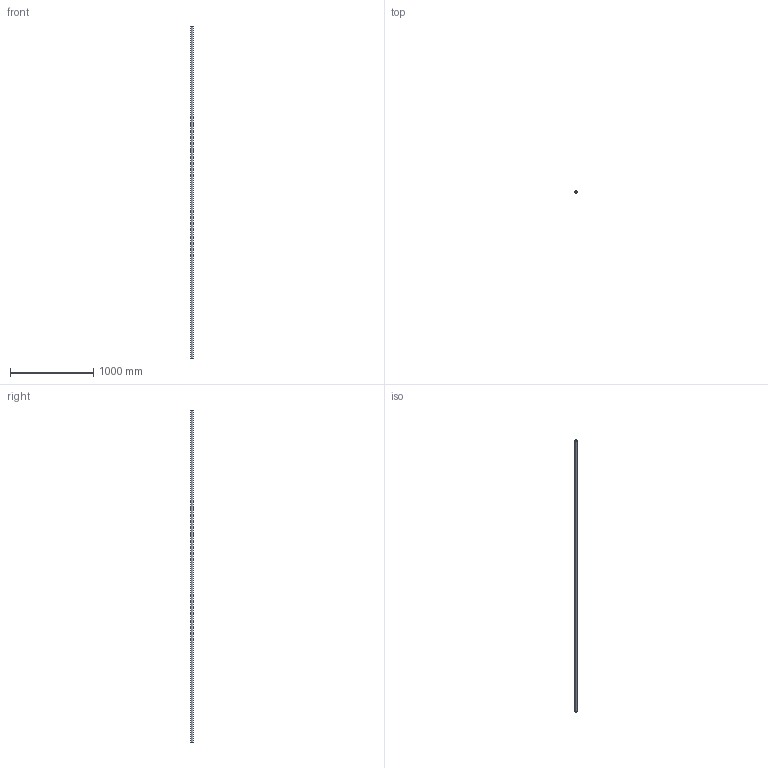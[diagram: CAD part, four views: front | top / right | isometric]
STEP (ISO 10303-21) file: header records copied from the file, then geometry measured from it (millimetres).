
FILE_DESCRIPTION (( 'STEP AP214' ), '1' );
FILE_NAME ('990-001-4000.step', '2022-09-28T08:49:37', ( '' ), ( '' ), 'SwSTEP 2.0', 'SolidWorks 2021', '' );
FILE_SCHEMA (( 'AUTOMOTIVE_DESIGN' ));
Length unit declared in the file: millimetre
Products named in the file (1): 990-001-4000
Bounding box: 28 x 28 x 4000 mm (x, y, z)
Volume: 404134.5 mm3; surface area: 673759.5 mm2
Topology: 1 solids, 1 shells, 4 faces, 6 edges, 4 vertices
Faces by surface type: plane 2, cylinder 2
Full cylindrical faces by diameter (mm): 25.6 x1, 28 x1
Entity records: 122 total; most frequent: DIRECTION 18, CARTESIAN_POINT 13, AXIS2_PLACEMENT_3D 9, ORIENTED_EDGE 8, EDGE_LOOP 8, FACE_OUTER_BOUND 6, ADVANCED_FACE 4, CIRCLE 4
